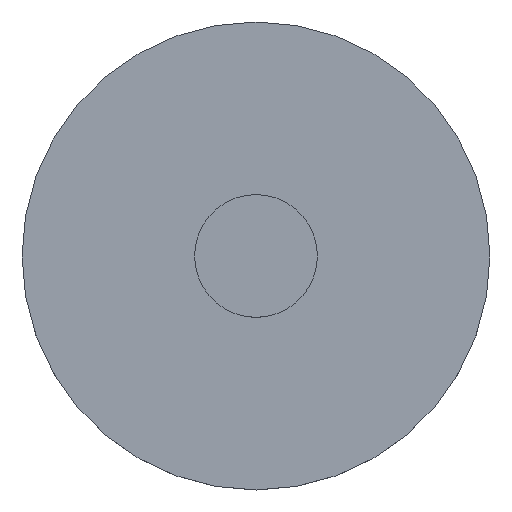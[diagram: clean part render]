
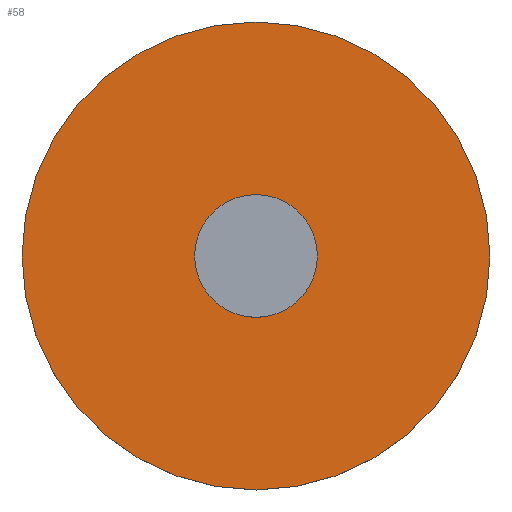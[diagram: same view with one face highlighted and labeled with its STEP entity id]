
A CAD part, top view. The second image highlights one B-rep face of the part: STEP entity #58.
In plain terms, the highlighted planar face has unit normal (0, 0, 1).
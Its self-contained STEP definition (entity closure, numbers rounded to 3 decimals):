
#58=ADVANCED_FACE('',(#72),#73,.T.);
#72=FACE_OUTER_BOUND('',#90,.T.);
#73=PLANE('',#91);
#90=EDGE_LOOP('',(#126,#127));
#91=AXIS2_PLACEMENT_3D('',#128,#129,#130);
#126=ORIENTED_EDGE('',*,*,#158,.T.);
#127=ORIENTED_EDGE('',*,*,#162,.T.);
#128=CARTESIAN_POINT('',(0.0,0.0,8.0));
#129=DIRECTION('',(0.0,0.0,1.0));
#130=DIRECTION('',(1.0,0.0,0.0));
#158=EDGE_CURVE('',#170,#174,#176,.T.);
#162=EDGE_CURVE('',#174,#170,#181,.T.);
#170=VERTEX_POINT('',#193);
#174=VERTEX_POINT('',#198);
#176=CIRCLE('',#201,38.1);
#181=CIRCLE('',#206,38.1);
#193=CARTESIAN_POINT('',(38.1,0.0,8.0));
#198=CARTESIAN_POINT('',(-38.1,0.,8.0));
#201=AXIS2_PLACEMENT_3D('',#224,#225,#226);
#206=AXIS2_PLACEMENT_3D('',#236,#237,#238);
#224=CARTESIAN_POINT('',(0.0,0.0,8.0));
#225=DIRECTION('',(0.0,0.0,1.0));
#226=DIRECTION('',(1.0,0.0,0.0));
#236=CARTESIAN_POINT('',(0.0,0.0,8.0));
#237=DIRECTION('',(0.0,0.0,1.0));
#238=DIRECTION('',(1.0,0.0,0.0));
